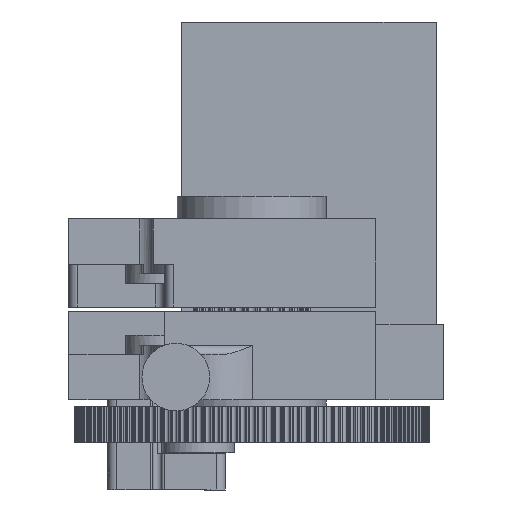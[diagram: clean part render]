
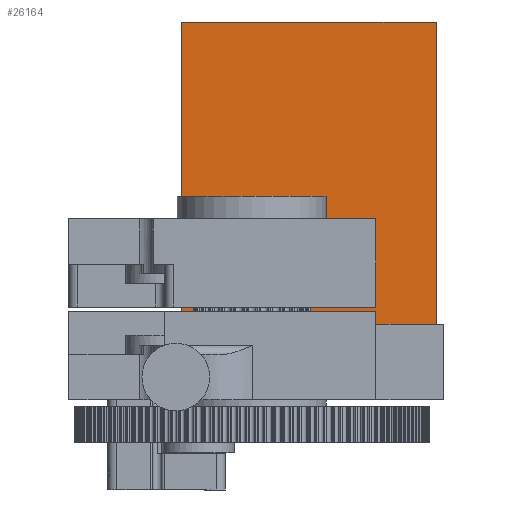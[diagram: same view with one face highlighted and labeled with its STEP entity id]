
A CAD part, front view. The second image highlights one B-rep face of the part: STEP entity #26164.
In plain terms, the highlighted planar face has unit normal (0, -1, 0).
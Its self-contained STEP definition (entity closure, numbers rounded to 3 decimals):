
#2610=LINE('',#48516,#4168);
#2611=LINE('',#48519,#4169);
#2612=LINE('',#48521,#4170);
#2613=LINE('',#48522,#4171);
#4168=VECTOR('',#37699,10.);
#4169=VECTOR('',#37702,10.);
#4170=VECTOR('',#37703,10.);
#4171=VECTOR('',#37704,10.);
#4520=PLANE('',#29586);
#5822=FACE_OUTER_BOUND('',#7311,.T.);
#7311=EDGE_LOOP('',(#23926,#23927,#23928,#23929));
#12418=VERTEX_POINT('',#48512);
#12419=VERTEX_POINT('',#48514);
#12420=VERTEX_POINT('',#48518);
#12421=VERTEX_POINT('',#48520);
#16298=EDGE_CURVE('',#12418,#12419,#2610,.T.);
#16299=EDGE_CURVE('',#12418,#12420,#2611,.T.);
#16300=EDGE_CURVE('',#12421,#12419,#2612,.T.);
#16301=EDGE_CURVE('',#12420,#12421,#2613,.T.);
#23926=ORIENTED_EDGE('',*,*,#16299,.F.);
#23927=ORIENTED_EDGE('',*,*,#16298,.T.);
#23928=ORIENTED_EDGE('',*,*,#16300,.F.);
#23929=ORIENTED_EDGE('',*,*,#16301,.F.);
#26164=ADVANCED_FACE('',(#5822),#4520,.T.);
#29586=AXIS2_PLACEMENT_3D('',#48517,#37700,#37701);
#37699=DIRECTION('',(0.,0.,1.));
#37700=DIRECTION('center_axis',(0.,-1.,0.));
#37701=DIRECTION('ref_axis',(1.,0.,0.));
#37702=DIRECTION('',(-1.,0.,0.));
#37703=DIRECTION('',(1.,0.,0.));
#37704=DIRECTION('',(0.,0.,1.));
#48512=CARTESIAN_POINT('',(40.832,29.432,-12.4));
#48514=CARTESIAN_POINT('',(40.832,29.432,63.6));
#48516=CARTESIAN_POINT('',(40.832,29.432,-12.4));
#48517=CARTESIAN_POINT('Origin',(-15.568,29.432,-12.4));
#48518=CARTESIAN_POINT('',(-15.568,29.432,-12.4));
#48519=CARTESIAN_POINT('',(-1.468,29.432,-12.4));
#48520=CARTESIAN_POINT('',(-15.568,29.432,63.6));
#48521=CARTESIAN_POINT('',(-1.468,29.432,63.6));
#48522=CARTESIAN_POINT('',(-15.568,29.432,-12.4));
